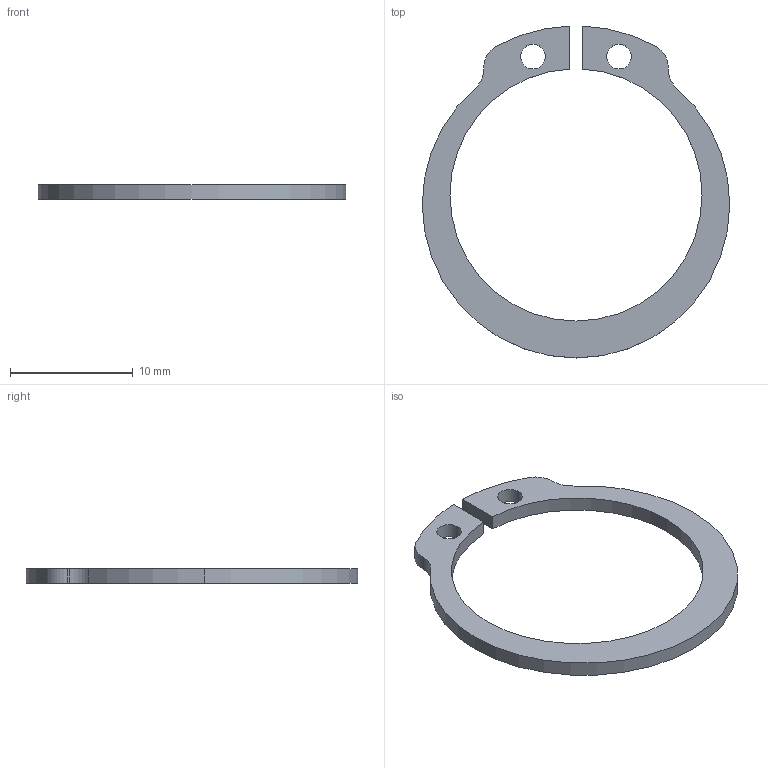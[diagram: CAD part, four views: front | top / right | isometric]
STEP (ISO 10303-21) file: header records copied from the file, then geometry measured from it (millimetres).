
FILE_DESCRIPTION(('CATIA V5 STEP Exchange'),'2;1');
FILE_NAME('C:\Users\Utente\Desktop\IO LAVORO\3D X SITO CF\X SITO\PLASTICA\553S\553S-R22.stp','2021-04-21T09:23:06+00:00',('none'),('none'),'CATIA Version 5 Release 20 GA (IN-10)','CATIA V5 STEP AP203','none');
FILE_SCHEMA(('CONFIG_CONTROL_DESIGN'));
Length unit declared in the file: millimetre
Products named in the file (1): 553S-R22
Bounding box: 25 x 26.99 x 1.2 mm (x, y, z)
Volume: 218.2 mm3; surface area: 560.6 mm2
Topology: 1 solids, 1 shells, 22 faces, 60 edges, 40 vertices
Faces by surface type: cylinder 16, plane 6
Entity records: 724 total; most frequent: CARTESIAN_POINT 121, ORIENTED_EDGE 120, DIRECTION 100, EDGE_CURVE 60, AXIS2_PLACEMENT_3D 53, VERTEX_POINT 40, CIRCLE 32, VECTOR 28
